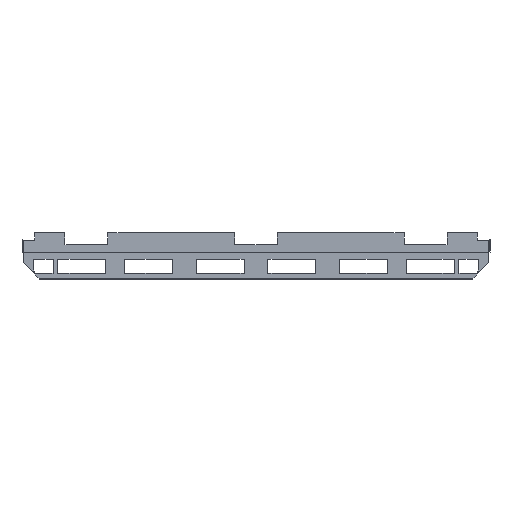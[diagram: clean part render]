
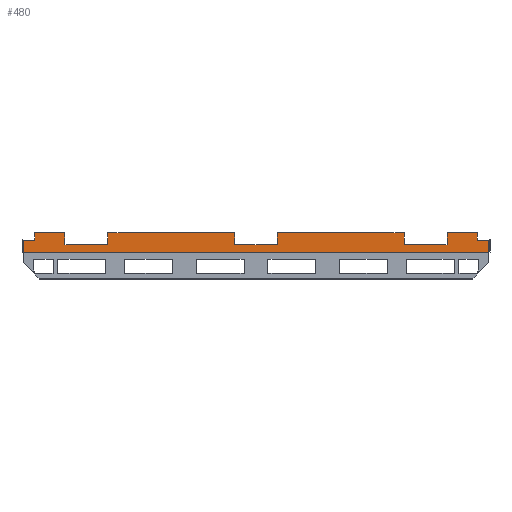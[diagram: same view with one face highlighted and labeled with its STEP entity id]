
A CAD part, left-side view. The second image highlights one B-rep face of the part: STEP entity #480.
In plain terms, the highlighted planar face has unit normal (-1, 0, 0) as drawn and (0, 0, 1) by its records, which use the part's own axes.
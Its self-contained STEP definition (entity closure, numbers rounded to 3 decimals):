
#480 = ADVANCED_FACE( '', ( #969 ), #970, .F. );
#969 = FACE_OUTER_BOUND( '', #1505, .T. );
#970 = PLANE( '', #1506 );
#1505 = EDGE_LOOP( '', ( #2478, #2479, #2480, #2481, #2482, #2483, #2484, #2485, #2486, #2487, #2488, #2489, #2490, #2491, #2492, #2493, #2494, #2495, #2496, #2497 ) );
#1506 = AXIS2_PLACEMENT_3D( '', #2498, #2499, #2500 );
#2478 = ORIENTED_EDGE( '', *, *, #3523, .F. );
#2479 = ORIENTED_EDGE( '', *, *, #3687, .F. );
#2480 = ORIENTED_EDGE( '', *, *, #3338, .F. );
#2481 = ORIENTED_EDGE( '', *, *, #3688, .T. );
#2482 = ORIENTED_EDGE( '', *, *, #3689, .T. );
#2483 = ORIENTED_EDGE( '', *, *, #3690, .F. );
#2484 = ORIENTED_EDGE( '', *, *, #3511, .F. );
#2485 = ORIENTED_EDGE( '', *, *, #3691, .F. );
#2486 = ORIENTED_EDGE( '', *, *, #3692, .F. );
#2487 = ORIENTED_EDGE( '', *, *, #3554, .F. );
#2488 = ORIENTED_EDGE( '', *, *, #3693, .F. );
#2489 = ORIENTED_EDGE( '', *, *, #3580, .F. );
#2490 = ORIENTED_EDGE( '', *, *, #3644, .F. );
#2491 = ORIENTED_EDGE( '', *, *, #3694, .F. );
#2492 = ORIENTED_EDGE( '', *, *, #3695, .F. );
#2493 = ORIENTED_EDGE( '', *, *, #3530, .F. );
#2494 = ORIENTED_EDGE( '', *, *, #3696, .F. );
#2495 = ORIENTED_EDGE( '', *, *, #3697, .F. );
#2496 = ORIENTED_EDGE( '', *, *, #3656, .F. );
#2497 = ORIENTED_EDGE( '', *, *, #3698, .F. );
#2498 = CARTESIAN_POINT( '', ( 975., 42.5, 0. ) );
#2499 = DIRECTION( '', ( 0., 0., -1. ) );
#2500 = DIRECTION( '', ( -1., 0., 0. ) );
#3338 = EDGE_CURVE( '', #3970, #3958, #3972, .T. );
#3511 = EDGE_CURVE( '', #4277, #4278, #4279, .T. );
#3523 = EDGE_CURVE( '', #4295, #4296, #4297, .T. );
#3530 = EDGE_CURVE( '', #4307, #4309, #4310, .T. );
#3554 = EDGE_CURVE( '', #4344, #4345, #4346, .T. );
#3580 = EDGE_CURVE( '', #4380, #4382, #4383, .T. );
#3644 = EDGE_CURVE( '', #4482, #4380, #4483, .T. );
#3656 = EDGE_CURVE( '', #4500, #4501, #4502, .T. );
#3687 = EDGE_CURVE( '', #3958, #4295, #4545, .T. );
#3688 = EDGE_CURVE( '', #3970, #4546, #4547, .T. );
#3689 = EDGE_CURVE( '', #4546, #4548, #4549, .T. );
#3690 = EDGE_CURVE( '', #4278, #4548, #4550, .T. );
#3691 = EDGE_CURVE( '', #4551, #4277, #4552, .T. );
#3692 = EDGE_CURVE( '', #4345, #4551, #4553, .T. );
#3693 = EDGE_CURVE( '', #4382, #4344, #4554, .T. );
#3694 = EDGE_CURVE( '', #4555, #4482, #4556, .T. );
#3695 = EDGE_CURVE( '', #4309, #4555, #4557, .T. );
#3696 = EDGE_CURVE( '', #4558, #4307, #4559, .T. );
#3697 = EDGE_CURVE( '', #4501, #4558, #4560, .T. );
#3698 = EDGE_CURVE( '', #4296, #4500, #4561, .T. );
#3958 = VERTEX_POINT( '', #4882 );
#3970 = VERTEX_POINT( '', #4900 );
#3972 = LINE( '', #4903, #4904 );
#4277 = VERTEX_POINT( '', #5347 );
#4278 = VERTEX_POINT( '', #5348 );
#4279 = LINE( '', #5349, #5350 );
#4295 = VERTEX_POINT( '', #5374 );
#4296 = VERTEX_POINT( '', #5375 );
#4297 = LINE( '', #5376, #5377 );
#4307 = VERTEX_POINT( '', #5391 );
#4309 = VERTEX_POINT( '', #5394 );
#4310 = LINE( '', #5395, #5396 );
#4344 = VERTEX_POINT( '', #5446 );
#4345 = VERTEX_POINT( '', #5447 );
#4346 = LINE( '', #5448, #5449 );
#4380 = VERTEX_POINT( '', #5500 );
#4382 = VERTEX_POINT( '', #5503 );
#4383 = LINE( '', #5504, #5505 );
#4482 = VERTEX_POINT( '', #5652 );
#4483 = LINE( '', #5653, #5654 );
#4500 = VERTEX_POINT( '', #5680 );
#4501 = VERTEX_POINT( '', #5681 );
#4502 = LINE( '', #5682, #5683 );
#4545 = LINE( '', #5748, #5749 );
#4546 = VERTEX_POINT( '', #5750 );
#4547 = LINE( '', #5751, #5752 );
#4548 = VERTEX_POINT( '', #5753 );
#4549 = LINE( '', #5754, #5755 );
#4550 = LINE( '', #5756, #5757 );
#4551 = VERTEX_POINT( '', #5758 );
#4552 = LINE( '', #5759, #5760 );
#4553 = LINE( '', #5761, #5762 );
#4554 = LINE( '', #5763, #5764 );
#4555 = VERTEX_POINT( '', #5765 );
#4556 = LINE( '', #5766, #5767 );
#4557 = LINE( '', #5768, #5769 );
#4558 = VERTEX_POINT( '', #5770 );
#4559 = LINE( '', #5771, #5772 );
#4560 = LINE( '', #5773, #5774 );
#4561 = LINE( '', #5775, #5776 );
#4882 = CARTESIAN_POINT( '', ( 975., 16., 0. ) );
#4900 = CARTESIAN_POINT( '', ( 975., 42.5, 0. ) );
#4903 = CARTESIAN_POINT( '', ( 975., 42.5, 0. ) );
#4904 = VECTOR( '', #6169, 1000. );
#5347 = CARTESIAN_POINT( '', ( 24.5, 0., 0. ) );
#5348 = CARTESIAN_POINT( '', ( 24.5, 16., 0. ) );
#5349 = CARTESIAN_POINT( '', ( 24.5, 0., 0. ) );
#5350 = VECTOR( '', #6338, 1000. );
#5374 = CARTESIAN_POINT( '', ( 950.5, 16., 0. ) );
#5375 = CARTESIAN_POINT( '', ( 950.5, 0., 0. ) );
#5376 = CARTESIAN_POINT( '', ( 950.5, 16., 0. ) );
#5377 = VECTOR( '', #6347, 1000. );
#5391 = CARTESIAN_POINT( '', ( 797.5, 0., 0. ) );
#5394 = CARTESIAN_POINT( '', ( 532.5, 0., 0. ) );
#5395 = CARTESIAN_POINT( '', ( 975., 0., 0. ) );
#5396 = VECTOR( '', #6353, 1000. );
#5446 = CARTESIAN_POINT( '', ( 177.5, 25., 0. ) );
#5447 = CARTESIAN_POINT( '', ( 87.5, 25., 0. ) );
#5448 = CARTESIAN_POINT( '', ( 177.5, 25., 0. ) );
#5449 = VECTOR( '', #6370, 1000. );
#5500 = CARTESIAN_POINT( '', ( 442.5, 0., 0. ) );
#5503 = CARTESIAN_POINT( '', ( 177.5, 0., 0. ) );
#5504 = CARTESIAN_POINT( '', ( 975., 0., 0. ) );
#5505 = VECTOR( '', #6389, 1000. );
#5652 = CARTESIAN_POINT( '', ( 442.5, 25., 0. ) );
#5653 = CARTESIAN_POINT( '', ( 442.5, 25., 0. ) );
#5654 = VECTOR( '', #6438, 1000. );
#5680 = CARTESIAN_POINT( '', ( 887.5, 0., 0. ) );
#5681 = CARTESIAN_POINT( '', ( 887.5, 25., 0. ) );
#5682 = CARTESIAN_POINT( '', ( 887.5, 0., 0. ) );
#5683 = VECTOR( '', #6448, 1000. );
#5748 = CARTESIAN_POINT( '', ( 975., 16., 0. ) );
#5749 = VECTOR( '', #6471, 1000. );
#5750 = CARTESIAN_POINT( '', ( 0., 42.5, 0. ) );
#5751 = CARTESIAN_POINT( '', ( 975., 42.5, 0. ) );
#5752 = VECTOR( '', #6472, 1000. );
#5753 = CARTESIAN_POINT( '', ( 0., 16., 0. ) );
#5754 = CARTESIAN_POINT( '', ( 0., 42.5, 0. ) );
#5755 = VECTOR( '', #6473, 1000. );
#5756 = CARTESIAN_POINT( '', ( 24.5, 16., 0. ) );
#5757 = VECTOR( '', #6474, 1000. );
#5758 = CARTESIAN_POINT( '', ( 87.5, 0., 0. ) );
#5759 = CARTESIAN_POINT( '', ( 975., 0., 0. ) );
#5760 = VECTOR( '', #6475, 1000. );
#5761 = CARTESIAN_POINT( '', ( 87.5, 25., 0. ) );
#5762 = VECTOR( '', #6476, 1000. );
#5763 = CARTESIAN_POINT( '', ( 177.5, 0., 0. ) );
#5764 = VECTOR( '', #6477, 1000. );
#5765 = CARTESIAN_POINT( '', ( 532.5, 25., 0. ) );
#5766 = CARTESIAN_POINT( '', ( 532.5, 25., 0. ) );
#5767 = VECTOR( '', #6478, 1000. );
#5768 = CARTESIAN_POINT( '', ( 532.5, 0., 0. ) );
#5769 = VECTOR( '', #6479, 1000. );
#5770 = CARTESIAN_POINT( '', ( 797.5, 25., 0. ) );
#5771 = CARTESIAN_POINT( '', ( 797.5, 25., 0. ) );
#5772 = VECTOR( '', #6480, 1000. );
#5773 = CARTESIAN_POINT( '', ( 887.5, 25., 0. ) );
#5774 = VECTOR( '', #6481, 1000. );
#5775 = CARTESIAN_POINT( '', ( 975., 0., 0. ) );
#5776 = VECTOR( '', #6482, 1000. );
#6169 = DIRECTION( '', ( 0., -1., 0. ) );
#6338 = DIRECTION( '', ( 0., 1., 0. ) );
#6347 = DIRECTION( '', ( 0., -1., 0. ) );
#6353 = DIRECTION( '', ( -1., 0., 0. ) );
#6370 = DIRECTION( '', ( -1., 0., 0. ) );
#6389 = DIRECTION( '', ( -1., 0., 0. ) );
#6438 = DIRECTION( '', ( 0., -1., 0. ) );
#6448 = DIRECTION( '', ( 0., 1., 0. ) );
#6471 = DIRECTION( '', ( -1., 0., 0. ) );
#6472 = DIRECTION( '', ( -1., 0., 0. ) );
#6473 = DIRECTION( '', ( 0., -1., 0. ) );
#6474 = DIRECTION( '', ( -1., 0., 0. ) );
#6475 = DIRECTION( '', ( -1., 0., 0. ) );
#6476 = DIRECTION( '', ( 0., -1., 0. ) );
#6477 = DIRECTION( '', ( 0., 1., 0. ) );
#6478 = DIRECTION( '', ( -1., 0., 0. ) );
#6479 = DIRECTION( '', ( 0., 1., 0. ) );
#6480 = DIRECTION( '', ( 0., -1., 0. ) );
#6481 = DIRECTION( '', ( -1., 0., 0. ) );
#6482 = DIRECTION( '', ( -1., 0., 0. ) );
